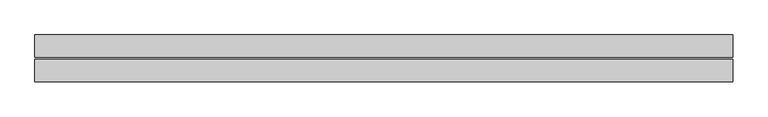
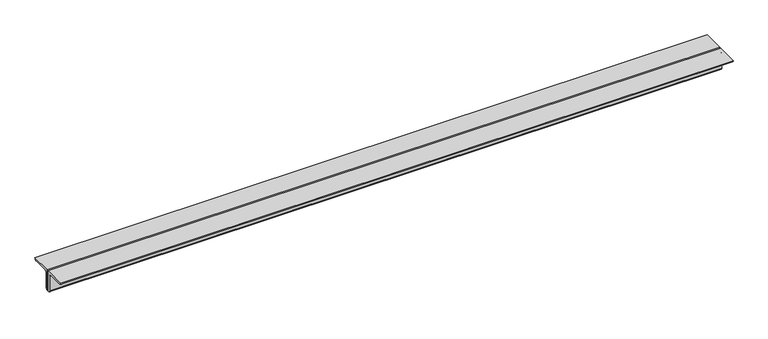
"""IFC4 building model written with IfcOpenShell, lengths in millimetres: beam geometry, Profilati doppi a L : DCED150x12."""

from ifc_helpers import new_model, si_unit, point, frame, frame_2d, origin, place, context, project, spatial, polyline, circle_curve, trimmed, segment, composite_curve, outline, extrude, source, transform, mapped, element, save


def beam_1ba59c2f(model_context):
    return source(origin(), model_context, "Body", "SweptSolid", [
        extrude(outline(composite_curve([segment(polyline([(6.0, 42.4), (156.0, 42.4)]), True, "CONTINUOUS"), segment(trimmed(circle_curve(frame_2d((141.0, 42.4)), 15.0), [point((156.0, 42.4))], [point((141.0, 27.4))], False, "CARTESIAN"), True, "CONTINUOUS"), segment(polyline([(141.0, 27.4), (36.0, 27.4)]), True, "CONTINUOUS"), segment(trimmed(circle_curve(frame_2d((36.0, 12.4)), 15.0), [point((36.0, 27.4))], [point((21.0, 12.4))], True, "CARTESIAN"), True, "CONTINUOUS"), segment(polyline([(21.0, 12.4), (21.0, -92.6)]), True, "CONTINUOUS"), segment(trimmed(circle_curve(frame_2d((6.0, -92.6)), 15.0), [point((21.0, -92.6))], [point((6.0, -107.6))], False, "CARTESIAN"), True, "CONTINUOUS"), segment(polyline([(6.0, -107.6), (6.0, 42.4)]), True, "CONTINUOUS")], self_intersect=False)), frame((-2080.0, 0.0, 0.0), z_axis=(1.0, 0.0, 0.0), x_axis=(0.0, 1.0, 0.0)), (0.0, 0.0, 1.0), 4655.0),
        extrude(outline(composite_curve([segment(polyline([(-6.0, 42.4), (-6.0, -107.6)]), True, "CONTINUOUS"), segment(trimmed(circle_curve(frame_2d((-6.0, -92.6)), 15.0), [point((-6.0, -107.6))], [point((-21.0, -92.6))], False, "CARTESIAN"), True, "CONTINUOUS"), segment(polyline([(-21.0, -92.6), (-21.0, 12.4)]), True, "CONTINUOUS"), segment(trimmed(circle_curve(frame_2d((-36.0, 12.4)), 15.0), [point((-21.0, 12.4))], [point((-36.0, 27.4))], True, "CARTESIAN"), True, "CONTINUOUS"), segment(polyline([(-36.0, 27.4), (-141.0, 27.4)]), True, "CONTINUOUS"), segment(trimmed(circle_curve(frame_2d((-141.0, 42.4)), 15.0), [point((-141.0, 27.4))], [point((-156.0, 42.4))], False, "CARTESIAN"), True, "CONTINUOUS"), segment(polyline([(-156.0, 42.4), (-6.0, 42.4)]), True, "CONTINUOUS")], self_intersect=False)), frame((-2080.0, 0.0, 0.0), z_axis=(1.0, 0.0, 0.0), x_axis=(0.0, 1.0, 0.0)), (0.0, 0.0, 1.0), 4655.0),
    ])


if __name__ == "__main__":
    model = new_model("IFC4")
    model_context = context("Model", 3, world=origin())
    ifc_project = project(units=[si_unit("LENGTHUNIT", "METRE", prefix="MILLI")], contexts=[model_context])
    site = spatial("IfcSite", under=ifc_project)
    building = spatial("IfcBuilding", under=site)
    placement = place(None, origin())
    beam_shape = beam_1ba59c2f(model_context)
    element("IfcBeam", 1, ObjectType="Profilati doppi a L : DCED150x12", at=placement, inside=building, context=model_context, shape_type="MappedRepresentation", body=[
        mapped(beam_shape, transform((0.0, 0.0, 0.0), x_axis=(1.0, 0.0, 0.0), y_axis=(0.0, 1.0, 0.0), z_axis=(0.0, 0.0, 1.0))),
    ])
    save(model, "model.ifc")
